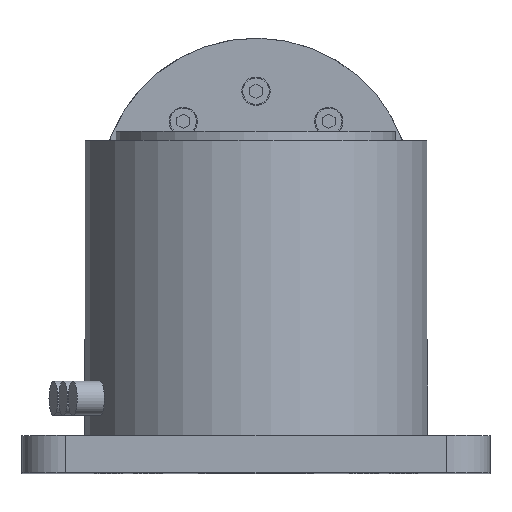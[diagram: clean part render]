
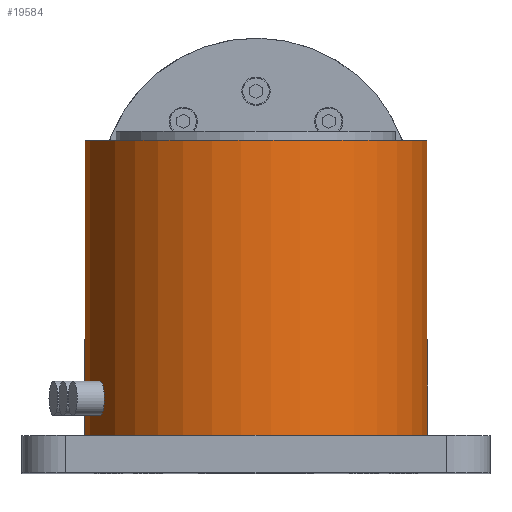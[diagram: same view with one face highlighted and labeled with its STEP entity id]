
A CAD part, top view. The second image highlights one B-rep face of the part: STEP entity #19584.
In plain terms, the highlighted cylindrical face has radius 55 mm (diameter 110 mm), a full revolution.
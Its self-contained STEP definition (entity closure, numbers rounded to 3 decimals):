
#19584 = ADVANCED_FACE('',(#19585),#19598,.T.);
#19585 = FACE_BOUND('',#19586,.T.);
#19586 = EDGE_LOOP('',(#19587,#19621,#19644,#19671));
#19587 = ORIENTED_EDGE('',*,*,#19588,.F.);
#19588 = EDGE_CURVE('',#19589,#19589,#19591,.T.);
#19589 = VERTEX_POINT('',#19590);
#19590 = CARTESIAN_POINT('',(-53.126,17.,214.235));
#19591 = SURFACE_CURVE('',#19592,(#19597,#19609),.PCURVE_S1.);
#19592 = CIRCLE('',#19593,55.);
#19593 = AXIS2_PLACEMENT_3D('',#19594,#19595,#19596);
#19594 = CARTESIAN_POINT('',(0.,17.,200.));
#19595 = DIRECTION('',(0.,1.,-0.));
#19596 = DIRECTION('',(-0.966,0.,0.259));
#19597 = PCURVE('',#19598,#19603);
#19598 = CYLINDRICAL_SURFACE('',#19599,55.);
#19599 = AXIS2_PLACEMENT_3D('',#19600,#19601,#19602);
#19600 = CARTESIAN_POINT('',(0.,-77.6,200.));
#19601 = DIRECTION('',(0.,1.,0.));
#19602 = DIRECTION('',(-0.966,0.,0.259));
#19603 = DEFINITIONAL_REPRESENTATION('',(#19604),#19608);
#19604 = LINE('',#19605,#19606);
#19605 = CARTESIAN_POINT('',(0.,94.6));
#19606 = VECTOR('',#19607,1.);
#19607 = DIRECTION('',(1.,0.));
#19608 = ( GEOMETRIC_REPRESENTATION_CONTEXT(2) 
PARAMETRIC_REPRESENTATION_CONTEXT() REPRESENTATION_CONTEXT('2D SPACE',''
  ) );
#19609 = PCURVE('',#19610,#19615);
#19610 = PLANE('',#19611);
#19611 = AXIS2_PLACEMENT_3D('',#19612,#19613,#19614);
#19612 = CARTESIAN_POINT('',(0.,17.,200.));
#19613 = DIRECTION('',(0.,1.,0.));
#19614 = DIRECTION('',(-0.966,0.,0.259));
#19615 = DEFINITIONAL_REPRESENTATION('',(#19616),#19620);
#19616 = CIRCLE('',#19617,55.);
#19617 = AXIS2_PLACEMENT_2D('',#19618,#19619);
#19618 = CARTESIAN_POINT('',(0.,0.));
#19619 = DIRECTION('',(1.,0.));
#19620 = ( GEOMETRIC_REPRESENTATION_CONTEXT(2) 
PARAMETRIC_REPRESENTATION_CONTEXT() REPRESENTATION_CONTEXT('2D SPACE',''
  ) );
#19621 = ORIENTED_EDGE('',*,*,#19622,.F.);
#19622 = EDGE_CURVE('',#19623,#19589,#19625,.T.);
#19623 = VERTEX_POINT('',#19624);
#19624 = CARTESIAN_POINT('',(-53.126,-77.6,214.235));
#19625 = SEAM_CURVE('',#19626,(#19630,#19637),.PCURVE_S1.);
#19626 = LINE('',#19627,#19628);
#19627 = CARTESIAN_POINT('',(-53.126,-77.6,214.235));
#19628 = VECTOR('',#19629,1.);
#19629 = DIRECTION('',(0.,1.,0.));
#19630 = PCURVE('',#19598,#19631);
#19631 = DEFINITIONAL_REPRESENTATION('',(#19632),#19636);
#19632 = LINE('',#19633,#19634);
#19633 = CARTESIAN_POINT('',(6.283,-0.));
#19634 = VECTOR('',#19635,1.);
#19635 = DIRECTION('',(0.,1.));
#19636 = ( GEOMETRIC_REPRESENTATION_CONTEXT(2) 
PARAMETRIC_REPRESENTATION_CONTEXT() REPRESENTATION_CONTEXT('2D SPACE',''
  ) );
#19637 = PCURVE('',#19598,#19638);
#19638 = DEFINITIONAL_REPRESENTATION('',(#19639),#19643);
#19639 = LINE('',#19640,#19641);
#19640 = CARTESIAN_POINT('',(0.,-0.));
#19641 = VECTOR('',#19642,1.);
#19642 = DIRECTION('',(0.,1.));
#19643 = ( GEOMETRIC_REPRESENTATION_CONTEXT(2) 
PARAMETRIC_REPRESENTATION_CONTEXT() REPRESENTATION_CONTEXT('2D SPACE',''
  ) );
#19644 = ORIENTED_EDGE('',*,*,#19645,.T.);
#19645 = EDGE_CURVE('',#19623,#19623,#19646,.T.);
#19646 = SURFACE_CURVE('',#19647,(#19652,#19659),.PCURVE_S1.);
#19647 = CIRCLE('',#19648,55.);
#19648 = AXIS2_PLACEMENT_3D('',#19649,#19650,#19651);
#19649 = CARTESIAN_POINT('',(0.,-77.6,200.));
#19650 = DIRECTION('',(0.,1.,-0.));
#19651 = DIRECTION('',(-0.966,0.,0.259));
#19652 = PCURVE('',#19598,#19653);
#19653 = DEFINITIONAL_REPRESENTATION('',(#19654),#19658);
#19654 = LINE('',#19655,#19656);
#19655 = CARTESIAN_POINT('',(0.,0.));
#19656 = VECTOR('',#19657,1.);
#19657 = DIRECTION('',(1.,0.));
#19658 = ( GEOMETRIC_REPRESENTATION_CONTEXT(2) 
PARAMETRIC_REPRESENTATION_CONTEXT() REPRESENTATION_CONTEXT('2D SPACE',''
  ) );
#19659 = PCURVE('',#19660,#19665);
#19660 = PLANE('',#19661);
#19661 = AXIS2_PLACEMENT_3D('',#19662,#19663,#19664);
#19662 = CARTESIAN_POINT('',(0.,-77.6,200.));
#19663 = DIRECTION('',(0.,1.,0.));
#19664 = DIRECTION('',(-0.966,0.,0.259));
#19665 = DEFINITIONAL_REPRESENTATION('',(#19666),#19670);
#19666 = CIRCLE('',#19667,55.);
#19667 = AXIS2_PLACEMENT_2D('',#19668,#19669);
#19668 = CARTESIAN_POINT('',(0.,0.));
#19669 = DIRECTION('',(1.,0.));
#19670 = ( GEOMETRIC_REPRESENTATION_CONTEXT(2) 
PARAMETRIC_REPRESENTATION_CONTEXT() REPRESENTATION_CONTEXT('2D SPACE',''
  ) );
#19671 = ORIENTED_EDGE('',*,*,#19622,.T.);
